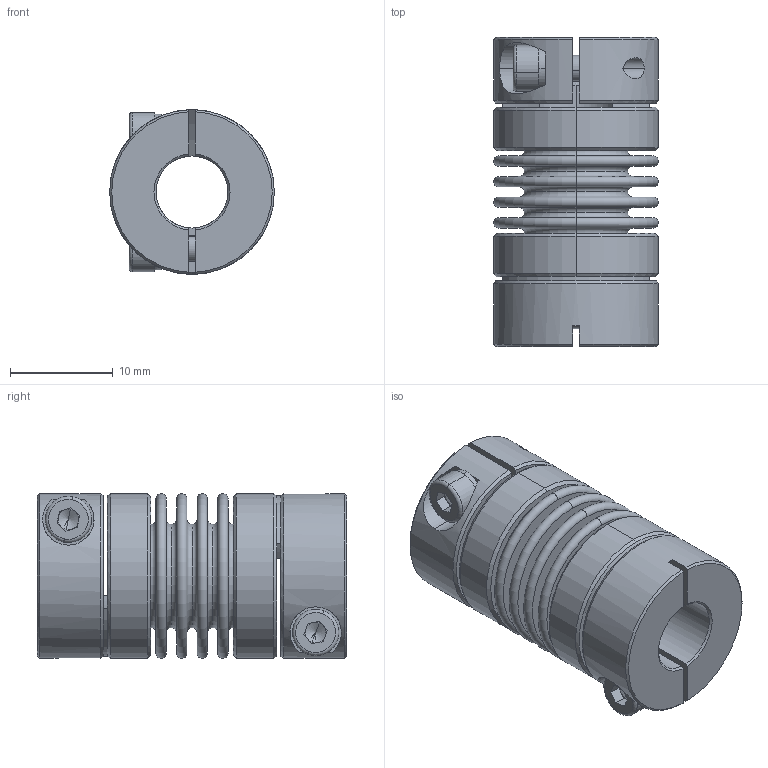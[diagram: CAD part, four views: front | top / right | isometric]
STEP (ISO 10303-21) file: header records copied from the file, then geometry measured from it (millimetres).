
FILE_DESCRIPTION (( 'STEP AP203' ), '1' );
FILE_NAME ('LB-B-D16L30-7-8.STEP', '2021-11-04T01:16:02', ( '' ), ( '' ), 'SwSTEP 2.0', 'SolidWorks 2018', '' );
FILE_SCHEMA (( 'CONFIG_CONTROL_DESIGN' ));
Length unit declared in the file: millimetre
Products named in the file (2): LB-B-D16L30-7-8; 零件1^LB-B-D16L30 波纹管联轴器-组装体
Assembly tree (1 placements, depth 2):
  LB-B-D16L30-7-8
    零件1^LB-B-D16L30 波纹管联轴器-组装体
Bounding box: 16 x 30.04 x 16 mm (x, y, z)
Volume: 2842.8 mm3; surface area: 6386.8 mm2
Topology: 1 solids, 1 shells, 254 faces, 586 edges, 362 vertices
Faces by surface type: plane 86, torus 68, cylinder 66, cone 34
Entity records: 7660 total; most frequent: CARTESIAN_POINT 1472, DIRECTION 1420, ORIENTED_EDGE 1164, AXIS2_PLACEMENT_3D 622, EDGE_CURVE 582, CIRCLE 364, VERTEX_POINT 362, EDGE_LOOP 296
